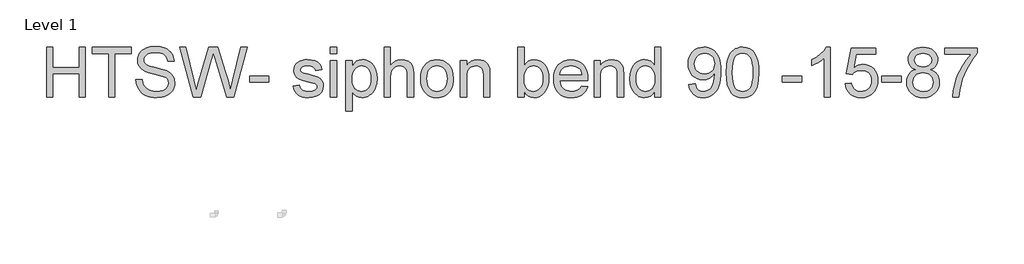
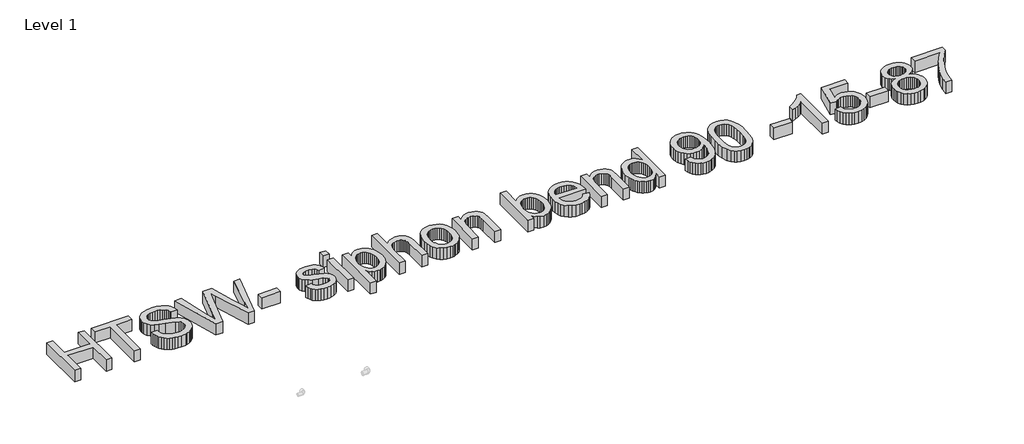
# One storey, part 23 of 29: 1 proxy.
"""IFC4 building model written with IfcOpenShell, lengths in millimetres."""

from ifc_helpers import new_model, si_unit, origin, origin_with_axes, place, context, project, spatial, polyline, outline, extrude, element, save

model = new_model("IFC4")

# Units and contexts
model_context = context("Model", 3, world=origin())
ifc_project = project(units=[si_unit("LENGTHUNIT", "METRE", prefix="MILLI")], contexts=[model_context])

# Site, building, storey
site = spatial("IfcSite", under=ifc_project)
building = spatial("IfcBuilding", under=site)
storey = spatial("IfcBuildingStorey", under=building, Name="Level 1", Elevation=0.0)

# Proxy
placement = place(None, origin())
element("IfcBuildingElementProxy", 1, Name="600mm Arial", ObjectType="600mm Arial", at=placement, inside=storey, context=model_context, shape_type="SweptSolid", body=[
    extrude(outline(polyline([(14483.8034381, 20336.8870935), (14483.8034381, 20939.6249544), (14559.1456707, 20939.6249544), (14559.1456707, 20694.7626984), (14879.3501593, 20694.7626984), (14879.3501593, 20939.6249544), (14954.6923919, 20939.6249544), (14954.6923919, 20336.8870935), (14879.3501593, 20336.8870935), (14879.3501593, 20619.4204658), (14559.1456707, 20619.4204658), (14559.1456707, 20336.8870935), (14483.8034381, 20336.8870935)])), origin_with_axes(), (0.0, 0.0, 1.0), 150.0),
    extrude(outline(polyline([(15237.2257642, 20336.8870935), (15237.2257642, 20864.2827218), (15039.4524036, 20864.2827218), (15039.4524036, 20939.6249544), (15510.3413574, 20939.6249544), (15510.3413574, 20864.2827218), (15312.5679968, 20864.2827218), (15312.5679968, 20336.8870935), (15237.2257642, 20336.8870935)])), origin_with_axes(), (0.0, 0.0, 1.0), 150.0),
    extrude(outline(polyline([(15566.8480319, 20544.0782332), (15642.1902645, 20544.0782332), (15650.8354914, 20502.2684444), (15666.4704762, 20468.6624242), (15690.8610525, 20441.9909795), (15725.7730538, 20420.9849176), (15768.4473652, 20407.3548897), (15816.1248718, 20402.811547), (15858.1002075, 20406.2512437), (15894.8516188, 20416.5703336), (15924.6316663, 20432.9042942), (15945.6929105, 20454.3886027), (15958.2192925, 20479.0550905), (15962.3947531, 20504.9355889), (15959.2677561, 20530.1538996), (15949.8867653, 20551.9509079), (15930.8304779, 20570.5473427), (15898.6775915, 20586.1639334), (15788.9751806, 20614.9323054), (15716.96228, 20633.9701987), (15670.8850601, 20652.0883869), (15633.3794907, 20677.4354564), (15606.8000166, 20708.153603), (15590.9626967, 20743.5806391), (15585.68359, 20783.0543772), (15587.3160664, 20805.4905804), (15592.2134955, 20827.1818225), (15600.3758772, 20848.1281036), (15611.8032117, 20868.3294237), (15626.3667402, 20886.9626468), (15643.937704, 20903.2046369), (15664.5161031, 20917.055394), (15688.1019375, 20928.5149181), (15741.113733, 20943.9107796), (15799.7909112, 20949.0427335), (15863.36092, 20943.6716563), (15918.9846777, 20927.5584249), (15943.3200716, 20915.5562748), (15964.6756215, 20901.0341331), (15983.0513271, 20883.9919997), (15998.4471886, 20864.4298746), (16010.7436443, 20842.9179749), (16019.8211325, 20820.0265177), (16025.6796533, 20795.7555031), (16028.3192066, 20770.104931), (15952.976974, 20770.104931), (15947.9369907, 20794.1460194), (15939.144611, 20815.0601108), (15926.599835, 20832.8472053), (15910.3026626, 20847.5073028), (15889.9495912, 20858.9668269), (15865.2371182, 20867.1522013), (15836.1652435, 20872.063426), (15802.7339672, 20873.7005008), (15768.2358331, 20872.0818201), (15738.7592882, 20867.2257777), (15714.3043326, 20859.1323738), (15694.8709662, 20847.8016084), (15680.0637159, 20834.1807775), (15669.4871085, 20819.2171774), (15663.1411441, 20802.9108079), (15661.0258226, 20785.2616692), (15662.5249418, 20770.0773398), (15667.0222992, 20756.3093562), (15674.5178948, 20743.9577182), (15685.0117287, 20733.0224259), (15701.5296303, 20722.6665477), (15727.5388874, 20712.200305), (15808.0314679, 20690.9367256), (15891.0992224, 20670.7400041), (15941.351903, 20653.1184565), (15984.3021259, 20625.7848243), (16000.9073995, 20609.7175782), (16014.2661144, 20592.0500453), (16024.5346206, 20572.8741963), (16031.8692679, 20552.2820017), (16037.7369857, 20506.8485752), (16036.0493271, 20483.2811349), (16030.9863511, 20460.4034734), (16022.5480578, 20438.2155905), (16010.7344473, 20416.7174864), (15995.752453, 20396.7414941), (15977.8090087, 20379.1199465), (15956.9041143, 20363.8528437), (15933.0377699, 20350.9401857), (15906.9043527, 20340.6716795), (15879.1982399, 20333.3370322), (15819.0679278, 20327.4693144), (15780.5276903, 20329.051207), (15745.2524054, 20333.7968847), (15713.2420733, 20341.7063476), (15684.4966939, 20352.7795957), (15658.8415233, 20367.035023), (15636.1018175, 20384.4910237), (15616.2775765, 20405.1475977), (15599.3688003, 20429.0047451), (15585.7479694, 20455.2899136), (15575.7875644, 20483.2305512), (15569.4875852, 20512.8266577), (15566.8480319, 20544.0782332)])), origin_with_axes(), (0.0, 0.0, 1.0), 150.0),
    extrude(outline(polyline([(16258.6133356, 20336.8870935), (16094.2436602, 20939.6249544), (16171.9403376, 20939.6249544), (16267.2953507, 20543.489622), (16296.7259103, 20421.2056468), (16328.2166091, 20529.3629534), (16447.7046811, 20939.6249544), (16559.6879605, 20939.6249544), (16646.5081113, 20642.2291495), (16683.700981, 20531.8645509), (16711.1081897, 20421.2056468), (16739.6558325, 20539.9579548), (16835.8937624, 20939.6249544), (16913.5904398, 20939.6249544), (16749.0736116, 20336.8870935), (16668.581031, 20336.8870935), (16524.0769833, 20801.8899354), (16503.91705, 20866.7843193), (16481.2555191, 20788.6461836), (16349.5537648, 20336.8870935), (16258.6133356, 20336.8870935)])), origin_with_axes(), (0.0, 0.0, 1.0), 150.0),
    extrude(outline(polyline([(16941.8437771, 20515.8248959), (16941.8437771, 20591.1671285), (17177.288254, 20591.1671285), (17177.288254, 20515.8248959), (16941.8437771, 20515.8248959)])), origin_with_axes(), (0.0, 0.0, 1.0), 150.0),
    extrude(outline(polyline([(17469.2394053, 20468.7360005), (17544.581638, 20478.1537796), (17549.1341776, 20460.9736905), (17556.4642264, 20445.9273168), (17566.5717842, 20433.0146588), (17579.4568511, 20422.2357164), (17595.1562152, 20413.7376423), (17613.7066648, 20407.6675893), (17659.3608204, 20402.811547), (17704.4631531, 20407.2629192), (17721.9927301, 20412.8271343), (17736.174581, 20420.6170356), (17754.9365628, 20439.9676285), (17759.6270582, 20450.8017533), (17761.1905567, 20462.4084302), (17759.6178612, 20472.5803674), (17754.8997746, 20481.6118704), (17736.0274282, 20496.2535738), (17707.8108792, 20505.8185057), (17658.4779037, 20517.7378823), (17589.7207588, 20537.6219041), (17545.0230963, 20554.5996582), (17516.3099066, 20573.1225167), (17495.5061798, 20597.6418517), (17482.8694333, 20626.5941647), (17478.6571844, 20658.4159573), (17482.0416988, 20687.6073936), (17492.1952418, 20714.5547497), (17508.1981086, 20738.1911679), (17529.1305942, 20757.4497904), (17549.934321, 20769.5715021), (17577.0288299, 20779.7434393), (17608.3539818, 20786.6412267), (17641.8496375, 20788.9404892), (17690.8883074, 20785.2432751), (17733.5258307, 20774.1516329), (17767.8124326, 20756.7508146), (17791.7983387, 20734.1260719), (17807.6908409, 20704.6035418), (17817.6972312, 20666.5093612), (17742.3549986, 20657.0915821), (17732.845249, 20680.8015767), (17714.0280849, 20698.6622475), (17685.7195654, 20709.8642543), (17647.7357494, 20713.5982565), (17604.4728268, 20710.0298012), (17575.6308783, 20699.3244351), (17559.4072824, 20683.8733913), (17553.999417, 20666.0679028), (17556.2434972, 20654.4796199), (17562.9757377, 20644.1421358), (17574.4904442, 20634.9082978), (17591.0819221, 20627.5138697), (17655.9763061, 20611.4742147), (17766.5616338, 20576.0103903), (17795.7714643, 20559.0510304), (17817.9179604, 20535.8376765), (17831.8790821, 20506.2967523), (17836.5327893, 20470.3546813), (17831.0697417, 20433.1985998), (17814.6805988, 20398.2498103), (17787.9907601, 20368.2490336), (17751.6256248, 20345.9369906), (17707.7005146, 20332.0862334), (17658.3307509, 20327.4693144), (17617.7809579, 20329.6950005), (17582.3631189, 20336.3720587), (17552.0772336, 20347.500489), (17526.9233022, 20363.0802915), (17506.3770928, 20383.0378898), (17489.9143735, 20407.2997074), (17477.5351443, 20435.8657443), (17469.2394053, 20468.7360005)])), origin_with_axes(), (0.0, 0.0, 1.0), 150.0),
    extrude(outline(polyline([(17921.292801, 20864.2827218), (17921.292801, 20939.6249544), (17996.6350336, 20939.6249544), (17996.6350336, 20864.2827218), (17921.292801, 20864.2827218)])), origin_with_axes(), (0.0, 0.0, 1.0), 150.0),
    extrude(outline(polyline([(17921.292801, 20336.8870935), (17921.292801, 20779.5227101), (17996.6350336, 20779.5227101), (17996.6350336, 20336.8870935), (17921.292801, 20336.8870935)])), origin_with_axes(), (0.0, 0.0, 1.0), 150.0),
    extrude(outline(polyline([(18109.6483825, 20167.3670701), (18109.6483825, 20779.5227101), (18184.9906152, 20779.5227101), (18184.9906152, 20705.6520054), (18209.5651324, 20742.0907171), (18237.0827057, 20768.1183682), (18269.1620157, 20783.7349589), (18307.4217432, 20788.9404892), (18333.6977147, 20787.1194733), (18358.3733995, 20781.6564256), (18381.4487976, 20772.5513463), (18402.9239091, 20759.8042351), (18422.3296843, 20743.746186), (18439.1970738, 20724.7082928), (18453.5260775, 20702.6905554), (18465.3166955, 20677.6929738), (18481.0988331, 20622.1795807), (18486.3595456, 20561.5894161), (18480.4182514, 20497.1548847), (18472.9916336, 20467.4898003), (18462.5943687, 20439.5261701), (18449.369011, 20413.9951597), (18433.4581147, 20391.6279344), (18414.8616798, 20372.4244942), (18393.5797064, 20356.3848392), (18370.6560596, 20343.7342971), (18347.1346045, 20334.6981956), (18323.0153412, 20329.2765347), (18298.2982697, 20327.4693144), (18263.6621798, 20332.3069626), (18232.7416981, 20346.8199073), (18206.2725886, 20368.7272802), (18184.9906152, 20395.7482127), (18184.9906152, 20167.3670701), (18109.6483825, 20167.3670701)]), holes=[polyline([(18184.9906152, 20554.6732346), (18187.0277617, 20518.3632817), (18193.1392014, 20487.1301003), (18203.3249341, 20460.9736905), (18217.5849599, 20439.8940521), (18234.7512535, 20423.6704561), (18253.6557896, 20412.0821733), (18274.298568, 20405.1292036), (18296.6795889, 20402.811547), (18319.3825065, 20405.211977), (18340.402364, 20412.4132671), (18359.7391614, 20424.4154172), (18377.3928986, 20441.2184273), (18392.1035799, 20463.0614208), (18402.6112094, 20490.1835209), (18408.9157871, 20522.5847276), (18411.017313, 20560.2650409), (18408.9663709, 20596.2622942), (18402.8135445, 20627.4402933), (18392.5588339, 20653.7990382), (18378.202239, 20675.338529), (18360.9945587, 20692.0771598), (18342.1865917, 20704.0333247), (18321.778338, 20711.2070236), (18299.7697977, 20713.5982565), (18277.8302352, 20711.0552722), (18257.1874567, 20703.4263194), (18237.8414623, 20690.7113979), (18219.7922519, 20672.9105079), (18204.5665358, 20650.2627725), (18193.6910243, 20623.0073152), (18187.1657175, 20591.1441359), (18184.9906152, 20554.6732346)])]), origin_with_axes(), (0.0, 0.0, 1.0), 150.0),
    extrude(outline(polyline([(18571.1195573, 20336.8870935), (18571.1195573, 20939.6249544), (18646.4617899, 20939.6249544), (18646.4617899, 20718.0128405), (18674.135713, 20749.0436868), (18705.2125445, 20771.208577), (18739.6922845, 20784.5075111), (18777.574933, 20788.9404892), (18823.0819358, 20784.1028409), (18862.1877919, 20769.5898962), (18892.9795149, 20746.5420892), (18913.5441184, 20716.0998541), (18925.1324013, 20674.2716713), (18928.9951622, 20617.066021), (18928.9951622, 20336.8870935), (18853.6529296, 20336.8870935), (18853.6529296, 20609.2669227), (18852.1538105, 20634.7059627), (18847.6564531, 20656.4293945), (18840.1608574, 20674.4372182), (18829.6670235, 20688.7294337), (18816.4232717, 20699.6095437), (18800.6779223, 20707.3810508), (18782.4309753, 20712.0439551), (18761.6824308, 20713.5982565), (18729.8422441, 20709.4044018), (18699.951832, 20696.8228376), (18675.1933737, 20677.0675744), (18658.7490485, 20651.352623), (18649.5336046, 20617.1763856), (18646.4617899, 20572.0372648), (18646.4617899, 20336.8870935), (18571.1195573, 20336.8870935)])), origin_with_axes(), (0.0, 0.0, 1.0), 150.0),
    extrude(outline(polyline([(19013.7551739, 20558.2049018), (19017.829467, 20615.5301137), (19030.0523463, 20664.9274686), (19050.4238118, 20706.3969665), (19078.9438634, 20739.9386074), (19107.6570532, 20761.3769307), (19139.350087, 20776.6900187), (19174.0229651, 20785.8778715), (19211.6756873, 20788.9404892), (19253.2417542, 20785.2110854), (19290.8254986, 20774.0228742), (19324.4269203, 20755.3758556), (19354.0460194, 20729.2700295), (19378.220465, 20696.5883128), (19395.4879262, 20658.2136222), (19405.8484029, 20614.1459577), (19409.3018951, 20564.3853193), (19407.7751848, 20524.0562556), (19403.195054, 20488.2705345), (19395.5615026, 20457.0281561), (19384.8745306, 20430.3291203), (19371.2674953, 20407.2675177), (19354.8737539, 20386.9374389), (19335.6933064, 20369.338884), (19313.7261528, 20354.4718528), (19289.8276186, 20342.6582423), (19264.8530297, 20334.219949), (19238.8023859, 20329.1569731), (19211.6756873, 20327.4693144), (19169.5026151, 20331.1849226), (19131.5693828, 20342.331747), (19097.8759906, 20360.9097878), (19068.4224384, 20386.9190448), (19044.5055102, 20419.9180598), (19027.42199, 20459.4653743), (19017.1718779, 20505.5609883), (19013.7551739, 20558.2049018)]), holes=[polyline([(19089.0974065, 20558.3520546), (19091.2771073, 20521.8075769), (19097.8162098, 20490.1651268), (19108.7147139, 20463.4247042), (19123.9726196, 20441.5863093), (19142.5322663, 20424.6223508), (19163.3359931, 20412.5052376), (19186.3838001, 20405.2349697), (19211.6756873, 20402.811547), (19236.8388158, 20405.2487652), (19259.7946523, 20412.5604199), (19280.5431968, 20424.746511), (19299.0844494, 20441.8070385), (19314.3423551, 20463.8615641), (19325.2408592, 20491.0296495), (19331.7799617, 20523.3112945), (19333.9596625, 20560.7064993), (19331.7661661, 20596.0921488), (19325.1856769, 20626.9068644), (19314.2181949, 20653.1506462), (19298.8637202, 20674.8234942), (19280.2534897, 20691.7874527), (19259.5187408, 20703.904566), (19236.6594733, 20711.1748339), (19211.6756873, 20713.5982565), (19186.3838001, 20711.1840309), (19163.3359931, 20703.9413542), (19142.5322663, 20691.8702262), (19123.9726196, 20674.970647), (19108.7147139, 20653.1966315), (19097.8162098, 20626.5021942), (19091.2771073, 20594.8873352), (19089.0974065, 20558.3520546)])]), origin_with_axes(), (0.0, 0.0, 1.0), 150.0),
    extrude(outline(polyline([(19494.0619068, 20336.8870935), (19494.0619068, 20779.5227101), (19569.4041394, 20779.5227101), (19569.4041394, 20717.7185349), (19595.5789434, 20748.8781399), (19627.0144599, 20771.1350006), (19663.7106889, 20784.489117), (19705.6676304, 20788.9404892), (19742.8053178, 20785.3536397), (19776.8160083, 20774.5930913), (19805.1797101, 20758.0016134), (19825.3764317, 20736.921975), (19839.080036, 20711.4093587), (19847.9643862, 20681.5189466), (19851.9375117, 20608.6783115), (19851.9375117, 20336.8870935), (19776.5952791, 20336.8870935), (19776.5952791, 20598.5247684), (19774.4247753, 20637.4834717), (19767.913264, 20665.184986), (19755.9019169, 20685.0322196), (19737.2319056, 20700.4280811), (19713.3011818, 20710.3057127), (19685.5076971, 20713.5982565), (19662.6300355, 20711.7496495), (19641.3802518, 20706.2038284), (19621.7583458, 20696.9607933), (19603.7643178, 20684.0205441), (19588.7317397, 20665.9115529), (19577.994184, 20641.1622917), (19571.5516506, 20609.7727604), (19569.4041394, 20571.7429592), (19569.4041394, 20336.8870935), (19494.0619068, 20336.8870935)])), origin_with_axes(), (0.0, 0.0, 1.0), 150.0),
    extrude(outline(polyline([(20266.3197911, 20336.8870935), (20190.9775585, 20336.8870935), (20190.9775585, 20939.6249544), (20266.3197911, 20939.6249544), (20266.3197911, 20716.0998541), (20291.0966434, 20747.9676319), (20319.0740692, 20770.7303304), (20350.2520683, 20784.3879495), (20384.6306407, 20788.9404892), (20423.4421912, 20784.8386049), (20460.1200261, 20772.5329522), (20492.5672181, 20752.7960831), (20518.6868398, 20726.40055), (20539.1594728, 20693.6038701), (20554.6656989, 20654.6635609), (20564.4329659, 20611.1983032), (20567.6887215, 20564.8267777), (20564.3180027, 20511.3183415), (20554.2058464, 20464.2478402), (20537.3522525, 20423.6152738), (20513.757221, 20389.4206424), (20485.4349059, 20362.3169364), (20454.3994611, 20342.9571464), (20420.6508866, 20331.3412724), (20384.1891823, 20327.4693144), (20348.6793727, 20332.4633125), (20317.197871, 20347.4453067), (20289.7446771, 20372.4152972), (20266.3197911, 20407.3732838), (20266.3197911, 20336.8870935)]), holes=[polyline([(20266.3197911, 20561.2951105), (20271.470139, 20498.4608658), (20277.9080739, 20474.6589007), (20286.9211828, 20455.9337071), (20305.1773268, 20432.6927621), (20326.3949209, 20416.092087), (20350.573965, 20406.131682), (20377.7144592, 20402.811547), (20400.2472314, 20405.2579623), (20421.198111, 20412.5972081), (20440.5670981, 20424.8292844), (20458.3541926, 20441.9541913), (20473.2258222, 20463.9259435), (20483.8484148, 20490.6985557), (20490.2219704, 20522.2720279), (20492.3464889, 20558.6463602), (20490.3093424, 20595.7104712), (20484.1979027, 20627.5874461), (20474.01217, 20654.2772848), (20459.7521441, 20675.7799874), (20442.6042446, 20692.3254802), (20423.7548909, 20704.1436893), (20403.204083, 20711.2346147), (20380.9518208, 20713.5982565), (20358.4190486, 20711.1518413), (20337.4681689, 20703.8125955), (20318.0991819, 20691.5805191), (20300.3120874, 20674.4556123), (20285.4404578, 20652.7045893), (20274.8178652, 20626.5941647), (20268.4443096, 20596.1243384), (20266.3197911, 20561.2951105)])]), origin_with_axes(), (0.0, 0.0, 1.0), 150.0),
    extrude(outline(polyline([(20962.3525259, 20468.7360005), (21036.2232306, 20459.3182215), (21024.8970636, 20429.731312), (21009.6069682, 20403.6576756), (20990.3529443, 20381.0973122), (20967.1349919, 20362.0502219), (20940.1922343, 20346.9210749), (20909.7637947, 20336.1145413), (20875.8496733, 20329.6306211), (20838.44987, 20327.4693144), (20791.7012654, 20331.1987181), (20750.0478265, 20342.3869293), (20713.4895533, 20361.0339479), (20682.0264456, 20387.139774), (20656.7253614, 20419.9778406), (20638.6531584, 20458.8215808), (20627.8098366, 20503.6709945), (20624.195396, 20554.5260818), (20627.8466248, 20607.105616), (20638.8003112, 20653.4495503), (20657.0564552, 20693.5578849), (20682.6150568, 20727.4306196), (20713.995391, 20754.3411875), (20749.7167327, 20773.5630218), (20789.779082, 20785.0961223), (20834.1824388, 20788.9404892), (20877.1556544, 20785.1053194), (20916.0177887, 20773.59981), (20950.7688416, 20754.423961), (20981.4088133, 20727.5777724), (21006.4201904, 20693.778614), (21024.2854598, 20653.7438559), (21035.0046215, 20607.473498), (21038.5776753, 20554.9675402), (21038.136217, 20534.6604541), (20699.5376286, 20534.6604541), (20703.9016288, 20504.595298), (20712.5790453, 20478.2641442), (20725.5698783, 20455.6669927), (20742.8741276, 20436.8038434), (20763.5353002, 20421.9322137), (20786.5969027, 20411.3096211), (20812.0589353, 20404.9360655), (20839.9213979, 20402.811547), (20880.0205354, 20406.7478844), (20913.7921026, 20418.5568964), (20941.2360994, 20438.9743471), (20962.3525259, 20468.7360005)]), holes=[polyline([(20699.5376286, 20610.0026867), (20963.2354427, 20610.0026867), (20953.0451115, 20649.8075186), (20944.2803229, 20665.4608975), (20933.0691191, 20678.281585), (20912.5229097, 20693.7326288), (20889.1440089, 20704.7690887), (20862.9324167, 20711.3909646), (20833.8881332, 20713.5982565), (20807.3960311, 20711.8370215), (20783.1020238, 20706.5533163), (20761.0061115, 20697.7471411), (20741.108294, 20685.4184957), (20724.41105, 20670.1375973), (20711.9168577, 20652.474663), (20703.6257173, 20632.4296928), (20699.5376286, 20610.0026867)])]), origin_with_axes(), (0.0, 0.0, 1.0), 150.0),
    extrude(outline(polyline([(21113.919908, 20336.8870935), (21113.919908, 20779.5227101), (21189.2621406, 20779.5227101), (21189.2621406, 20717.7185349), (21215.4369445, 20748.8781399), (21246.872461, 20771.1350006), (21283.56869, 20784.489117), (21325.5256316, 20788.9404892), (21362.663319, 20785.3536397), (21396.6740095, 20774.5930913), (21425.0377113, 20758.0016134), (21445.2344328, 20736.921975), (21458.9380371, 20711.4093587), (21467.8223873, 20681.5189466), (21471.7955129, 20608.6783115), (21471.7955129, 20336.8870935), (21396.4532803, 20336.8870935), (21396.4532803, 20598.5247684), (21394.2827765, 20637.4834717), (21387.7712652, 20665.184986), (21375.759918, 20685.0322196), (21357.0899068, 20700.4280811), (21333.159183, 20710.3057127), (21305.3656982, 20713.5982565), (21282.4880367, 20711.7496495), (21261.2382529, 20706.2038284), (21241.616347, 20696.9607933), (21223.6223189, 20684.0205441), (21208.5897409, 20665.9115529), (21197.8521852, 20641.1622917), (21191.4096517, 20609.7727604), (21189.2621406, 20571.7429592), (21189.2621406, 20336.8870935), (21113.919908, 20336.8870935)])), origin_with_axes(), (0.0, 0.0, 1.0), 150.0),
    extrude(outline(polyline([(21848.5066759, 20336.8870935), (21848.5066759, 20407.9618949), (21825.9647067, 20372.746391), (21798.6586656, 20347.5924595), (21766.5885527, 20332.5001007), (21729.7543679, 20327.4693144), (21704.885545, 20329.2903303), (21681.0467917, 20334.7533779), (21658.238108, 20343.8584573), (21636.4594939, 20356.6055684), (21616.3915311, 20372.6130337), (21598.7148012, 20391.4991757), (21583.4293043, 20413.2639942), (21570.5350404, 20437.9074894), (21560.2987239, 20464.9606116), (21552.9870692, 20493.9543113), (21547.1377455, 20557.7634434), (21552.5272167, 20620.7816292), (21568.6956304, 20677.6929738), (21580.8173421, 20703.0492403), (21595.6245924, 20725.2601158), (21613.1173813, 20744.3256002), (21633.2957087, 20760.2456935), (21655.4468034, 20772.7996666), (21678.8578939, 20781.7667902), (21703.5289802, 20787.1470644), (21729.4600623, 20788.9404892), (21766.3218382, 20783.8085353), (21798.916183, 20768.4126738), (21826.5441208, 20744.8130438), (21848.5066759, 20715.0697845), (21848.5066759, 20939.6249544), (21923.8489085, 20939.6249544), (21923.8489085, 20336.8870935), (21848.5066759, 20336.8870935)]), holes=[polyline([(21622.4799781, 20558.057749), (21624.6044966, 20521.5224683), (21630.9780522, 20489.9076094), (21641.6006448, 20463.2131721), (21656.4722744, 20441.4391565), (21674.2317778, 20424.5395774), (21693.5179914, 20412.4684494), (21714.3309152, 20405.2257726), (21736.6705494, 20402.811547), (21759.1159496, 20405.115408), (21779.8047133, 20412.026991), (21798.7368405, 20423.546296), (21815.9123312, 20439.6733229), (21830.172357, 20460.5368306), (21840.3580897, 20486.2655776), (21846.4695294, 20516.859564), (21848.5066759, 20552.3187899), (21846.4327412, 20591.1947197), (21840.2109369, 20624.5340255), (21829.8412632, 20652.3367073), (21815.32372, 20674.6027651), (21797.7711503, 20691.6632926), (21778.2963971, 20703.8493837), (21756.8994606, 20711.1610383), (21733.5803406, 20713.5982565), (21710.7992481, 20711.2576073), (21689.9863242, 20704.2356598), (21671.141569, 20692.5324138), (21654.2649825, 20676.1478694), (21640.3590431, 20654.7233417), (21630.4262292, 20627.9001458), (21624.4665409, 20595.6782815), (21622.4799781, 20558.057749)])]), origin_with_axes(), (0.0, 0.0, 1.0), 150.0),
    extrude(outline(polyline([(22262.8889553, 20487.5715587), (22338.2311879, 20496.9893378), (22351.1070577, 20454.2230558), (22360.5800191, 20437.9580731), (22372.0763315, 20425.1051959), (22385.4672361, 20415.3517245), (22400.6239743, 20408.3849592), (22436.2349514, 20402.811547), (22468.1855027, 20406.3983965), (22497.2297862, 20417.1589448), (22521.3628451, 20433.9159697), (22538.5797225, 20455.4922487), (22551.6211392, 20483.8559506), (22563.2278162, 20520.9752439), (22571.3947964, 20563.5759789), (22574.1171232, 20608.3840059), (22573.6756648, 20623.0992857), (22547.5744373, 20591.2407049), (22513.416594, 20566.0040001), (22473.6669444, 20549.5596749), (22430.7902979, 20544.0782332), (22394.9999783, 20547.4259593), (22362.0883353, 20557.4691378), (22332.0553689, 20574.2077686), (22304.9010791, 20597.6418517), (22282.4004966, 20626.5481794), (22266.3286519, 20659.7035442), (22256.6855451, 20697.1079461), (22253.4711762, 20738.761385), (22256.841895, 20781.8035784), (22266.9540513, 20820.4311879), (22283.8076452, 20854.6442135), (22307.4026767, 20884.4426551), (22336.0744797, 20908.584911), (22368.1583882, 20925.8293796), (22403.6544022, 20936.1760607), (22442.5625217, 20939.6249544), (22471.289507, 20937.6567857), (22498.7564965, 20931.7522797), (22524.9634901, 20921.9114363), (22549.9104879, 20908.1342556), (22572.7651569, 20890.7150431), (22592.695164, 20869.9481045), (22609.7005092, 20845.8334397), (22623.7811926, 20818.3710488), (22634.8222509, 20785.9790391), (22642.7087212, 20747.0755181), (22647.4406034, 20701.6604858), (22649.0178974, 20649.7339422), (22647.4452019, 20595.2000349), (22642.7271153, 20546.5246484), (22634.8636377, 20503.7077827), (22623.854769, 20466.7494378), (22609.7418959, 20434.7483027), (22592.5664053, 20406.8030667), (22572.328297, 20382.9137296), (22549.0275711, 20363.0802915), (22523.1332772, 20347.500489), (22495.1144647, 20336.3720587), (22464.9711338, 20329.6950005), (22432.7032843, 20327.4693144), (22398.8673378, 20330.0950721), (22368.2871469, 20337.9723454), (22340.9627117, 20351.1011341), (22316.8940322, 20369.4814383), (22296.6881136, 20392.6166172), (22280.9519613, 20420.0100303), (22269.6855752, 20451.6616774), (22262.8889553, 20487.5715587)]), holes=[polyline([(22573.6756648, 20740.5272186), (22571.6431168, 20767.529757), (22565.5454727, 20791.5892395), (22555.3827326, 20812.705666), (22541.1548964, 20830.8790366), (22523.56094, 20845.4931489), (22503.2998391, 20855.9318005), (22480.3715938, 20862.1949914), (22454.776204, 20864.2827218), (22428.3622767, 20862.0340431), (22404.449947, 20855.288007), (22383.0392149, 20844.0446135), (22364.1300804, 20828.3038626), (22348.6790366, 20808.9854594), (22337.6425767, 20787.0091087), (22331.0207008, 20762.3748106), (22328.8134088, 20735.0825651), (22330.9011392, 20710.6046168), (22337.1643301, 20688.5270986), (22347.6029817, 20668.8500104), (22362.217094, 20651.5733522), (22380.3996616, 20637.5064644), (22401.5436793, 20627.4586874), (22425.649147, 20621.4300212), (22452.7160648, 20619.4204658), (22477.9573682, 20621.4300212), (22500.8534239, 20627.4586874), (22521.4042318, 20637.5064644), (22539.6097921, 20651.5733522), (22554.5136114, 20669.1903012), (22565.1591966, 20689.8882619), (22571.5465478, 20713.6672344), (22573.6756648, 20740.5272186)])]), origin_with_axes(), (0.0, 0.0, 1.0), 150.0),
    extrude(outline(polyline([(22714.942351, 20633.3999816), (22720.478975, 20729.8770348), (22727.399755, 20770.7901112), (22737.0888471, 20806.8195541), (22749.5048644, 20838.2596691), (22764.6064203, 20865.4047618), (22782.3935148, 20888.2548323), (22802.8661478, 20906.8098804), (22826.0932973, 20921.1664753), (22852.1439411, 20931.4211859), (22881.0180792, 20937.5740123), (22912.7157116, 20939.6249544), (22959.1424194, 20934.768912), (23000.7130848, 20920.200785), (23035.4779334, 20896.4907904), (23061.4871904, 20864.2091454), (23081.132089, 20823.6317613), (23096.803862, 20775.0345497), (23107.0677696, 20713.322345), (23110.4890722, 20633.3999816), (23105.0076305, 20537.4747513), (23098.1558283, 20496.6996307), (23088.5633053, 20460.7161731), (23076.243857, 20429.2622625), (23061.2112789, 20402.075783), (23043.4655712, 20379.1567347), (23023.0067337, 20360.5051176), (22999.7519931, 20346.0519537), (22973.6185759, 20335.7282652), (22944.606482, 20329.5340521), (22912.7157116, 20327.4693144), (22871.2186225, 20331.0561639), (22834.430423, 20341.8167122), (22802.351113, 20359.7509595), (22774.9806926, 20384.8589056), (22748.7139181, 20430.2463468), (22729.9519364, 20486.7990065), (22718.6947473, 20554.5168848), (22714.942351, 20633.3999816)]), holes=[polyline([(22790.2845836, 20633.5471344), (22792.4918755, 20568.0503437), (22799.1137515, 20515.0339496), (22810.1502113, 20474.4979523), (22825.6012551, 20446.4423516), (22844.2896605, 20427.3538746), (22865.038205, 20413.7192482), (22887.8468887, 20405.5384723), (22912.7157116, 20402.811547), (22937.5845344, 20405.5476694), (22960.3932181, 20413.7560364), (22981.1417627, 20427.4366481), (22999.830168, 20446.5895044), (23015.2812118, 20474.6910903), (23026.3176717, 20515.2178906), (23032.9395476, 20568.1699053), (23035.1468396, 20633.5471344), (23033.013124, 20697.3102812), (23026.6119773, 20749.3931747), (23015.9433994, 20789.7958148), (23001.0073904, 20818.5182016), (22982.6316848, 20838.5401792), (22961.6440169, 20852.8415917), (22938.0443869, 20861.4224393), (22911.8327948, 20864.2827218), (22887.0927306, 20861.7627301), (22864.670323, 20854.2027551), (22844.565572, 20841.6027968), (22826.7784775, 20823.9628551), (22810.8123989, 20792.6928855), (22799.4080571, 20750.5336089), (22792.5654519, 20697.4850251), (22790.2845836, 20633.5471344)])]), origin_with_axes(), (0.0, 0.0, 1.0), 150.0),
    extrude(outline(polyline([(23393.0224445, 20515.8248959), (23393.0224445, 20591.1671285), (23628.4669214, 20591.1671285), (23628.4669214, 20515.8248959), (23393.0224445, 20515.8248959)])), origin_with_axes(), (0.0, 0.0, 1.0), 150.0),
    extrude(outline(polyline([(23976.9247472, 20336.8870935), (23901.5825146, 20336.8870935), (23901.5825146, 20806.5988249), (23870.128604, 20781.159785), (23830.2134075, 20755.7575332), (23788.3116483, 20733.5558548), (23750.8980494, 20717.7185349), (23750.8980494, 20788.9404892), (23810.0718683, 20821.1301637), (23861.3362243, 20859.4266794), (23901.7480615, 20900.1512163), (23928.3643239, 20939.6249544), (23976.9247472, 20939.6249544), (23976.9247472, 20336.8870935)])), origin_with_axes(), (0.0, 0.0, 1.0), 150.0),
    extrude(outline(polyline([(24155.8625497, 20496.9893378), (24231.2047823, 20506.4071169), (24236.8333768, 20482.186686), (24245.0371453, 20461.1760255), (24255.8160878, 20443.3751355), (24269.1702042, 20428.7840159), (24285.0719034, 20417.4210607), (24303.4935943, 20409.3046642), (24324.4352769, 20404.4348263), (24347.8969512, 20402.811547), (24376.5917468, 20405.0694228), (24401.902028, 20411.84305), (24423.827795, 20423.1324287), (24442.3690475, 20438.9375589), (24457.1119185, 20458.4766914), (24467.6425406, 20480.9680769), (24473.9609139, 20506.4117154), (24476.0670383, 20534.8076069), (24474.0942711, 20561.6445984), (24468.1759695, 20585.5017458), (24458.3121335, 20606.379049), (24444.5027631, 20624.2765081), (24426.701873, 20638.633103), (24404.8634781, 20648.8878136), (24378.9875783, 20655.04064), (24349.0741735, 20657.0915821), (24312.5250973, 20653.8174323), (24282.9289908, 20643.9949831), (24259.2925726, 20628.9486094), (24240.6225614, 20610.0026867), (24165.2803288, 20619.4204658), (24231.2047823, 20930.2071753), (24523.1559337, 20930.2071753), (24523.1559337, 20854.8649427), (24292.1260407, 20854.8649427), (24259.8995779, 20688.8765865), (24286.4882491, 20707.9328738), (24313.7207138, 20721.5445076), (24341.596972, 20729.7114879), (24370.1170237, 20732.4338147), (24406.8086542, 20729.0584974), (24440.5112434, 20718.9325455), (24471.2247915, 20702.0559589), (24498.9492984, 20678.4287378), (24521.9005364, 20649.4948189), (24538.2942778, 20616.698139), (24548.1305226, 20580.0386982), (24551.4092709, 20539.5164964), (24548.4570179, 20500.4842167), (24539.6002588, 20464.1742638), (24524.8389938, 20430.5866376), (24504.1732227, 20399.7213383), (24472.8664649, 20368.1110778), (24436.3357828, 20345.5323204), (24394.5811763, 20331.9850659), (24347.6026456, 20327.4693144), (24308.7221172, 20330.3709836), (24273.6031822, 20339.0759913), (24242.2458407, 20353.5843375), (24214.6500925, 20373.8960222), (24191.6896575, 20398.9993698), (24174.2382553, 20427.882705), (24162.2958861, 20460.5460276), (24155.8625497, 20496.9893378)])), origin_with_axes(), (0.0, 0.0, 1.0), 150.0),
    extrude(outline(polyline([(24598.4981663, 20515.8248959), (24598.4981663, 20591.1671285), (24833.9426432, 20591.1671285), (24833.9426432, 20515.8248959), (24598.4981663, 20515.8248959)])), origin_with_axes(), (0.0, 0.0, 1.0), 150.0),
    extrude(outline(polyline([(25009.6430841, 20668.8638059), (24969.3048233, 20688.7294337), (24953.6468459, 20701.3109979), (24940.9963038, 20715.6583957), (24924.2760671, 20749.0988691), (24918.7026549, 20788.4990308), (24921.7376813, 20819.2263744), (24930.8427607, 20847.3969382), (24946.017893, 20873.0107221), (24967.2630782, 20896.0677261), (24993.5574438, 20915.1240135), (25023.8801173, 20928.7356473), (25058.2310986, 20936.9026276), (25096.6103877, 20939.6249544), (25135.1736179, 20936.8382483), (25169.7821166, 20928.4781299), (25200.4358838, 20914.5445994), (25227.1349196, 20895.0376566), (25248.7663809, 20871.5299971), (25264.2174247, 20845.5943164), (25273.488051, 20817.2306146), (25276.5782598, 20786.4388916), (25271.078424, 20748.3079228), (25254.5789165, 20715.4376665), (25242.1583006, 20701.1868377), (25226.8957963, 20688.6742514), (25187.8451225, 20668.8638059), (25212.6081793, 20658.3285853), (25234.216648, 20644.9698703), (25252.6705286, 20628.7876611), (25267.9698211, 20609.7819575), (25279.9765697, 20588.3758239), (25288.5528187, 20564.9923246), (25293.6985681, 20539.6314595), (25295.4138179, 20512.2932288), (25292.0109095, 20474.714083), (25281.8021841, 20440.2619341), (25264.7876418, 20408.9367822), (25240.9672826, 20380.7386273), (25211.5919053, 20357.4333029), (25177.9123087, 20340.7866426), (25139.9284927, 20330.7986465), (25097.6404573, 20327.4693144), (25055.352422, 20330.812442), (25017.368606, 20340.8418249), (24983.6890093, 20357.5574631), (24954.313632, 20380.9593565), (24930.4932728, 20409.355248), (24913.4787305, 20441.0528804), (24903.2700052, 20476.0522537), (24899.8670967, 20514.353368), (24901.6513244, 20542.937799), (24907.0040074, 20569.0942088), (24915.9251458, 20592.8225975), (24928.4147395, 20614.122965), (24944.1968771, 20632.6090353), (24962.9956471, 20647.8945322), (24984.8110494, 20659.9794557), (25009.6430841, 20668.8638059)]), holes=[polyline([(24994.0448875, 20786.2917388), (24995.714152, 20769.0196791), (25000.7219457, 20753.4030884), (25009.0682685, 20739.4419667), (25020.7531203, 20727.136314), (25035.6293485, 20717.0931355), (25053.5498002, 20709.9194366), (25074.5144754, 20705.6152172), (25098.5233741, 20704.1804775), (25121.9390631, 20705.6060202), (25142.4484843, 20709.8826484), (25160.0516378, 20717.010362), (25174.7485235, 20726.9891612), (25186.3368064, 20739.0372965), (25194.6141513, 20752.3730188), (25199.5805582, 20766.9963281), (25201.2360272, 20782.9072244), (25199.5253759, 20799.4389216), (25194.3934221, 20814.6002583), (25185.8401657, 20828.3912346), (25173.8656067, 20840.8118505), (25158.8376272, 20851.0803567), (25141.1241092, 20858.4150039), (25120.7250525, 20862.8157923), (25097.6404573, 20864.2827218), (25074.3765197, 20862.847982), (25053.880894, 20858.5437626), (25036.1535804, 20851.3700637), (25021.1945787, 20841.3268853), (25009.3165888, 20829.2787499), (25000.8323103, 20816.0901804), (24995.7417432, 20801.7611767), (24994.0448875, 20786.2917388)]), polyline([(24975.2093293, 20517.0021183), (24978.3547204, 20488.178564), (24987.7908936, 20460.2747147), (25005.210106, 20435.9393207), (25032.304615, 20417.8211324), (25064.751807, 20406.5639434), (25098.2290685, 20402.811547), (25125.4707303, 20404.7843142), (25149.5118186, 20410.7026158), (25170.3523337, 20420.5664518), (25187.9922753, 20434.3758222), (25202.0269735, 20451.2294161), (25212.0517578, 20470.2259226), (25218.0666284, 20491.3653418), (25220.0715853, 20514.6476735), (25218.0022491, 20538.3024858), (25211.7942404, 20559.8235826), (25201.4475593, 20579.2109637), (25186.9622058, 20596.4646293), (25168.8440175, 20610.6280861), (25147.5988323, 20620.744841), (25123.2266501, 20626.8148939), (25095.727471, 20628.8382449), (25068.8858809, 20626.842485), (25045.1620907, 20620.8552056), (25024.5561005, 20610.8764064), (25007.0679101, 20596.9060877), (24993.129781, 20579.9375306), (24983.1739745, 20560.9640167), (24977.2004906, 20539.985546), (24975.2093293, 20517.0021183)])]), origin_with_axes(), (0.0, 0.0, 1.0), 150.0),
    extrude(outline(polyline([(25361.3382715, 20854.8649427), (25361.3382715, 20930.2071753), (25756.8849927, 20930.2071753), (25756.8849927, 20869.2859169), (25700.5070769, 20797.9352039), (25644.6809842, 20707.1971098), (25595.4399791, 20605.3489795), (25575.5513587, 20553.362655), (25558.8173265, 20500.6681577), (25540.8646851, 20422.346081), (25530.8582948, 20336.8870935), (25455.5160622, 20336.8870935), (25463.6646484, 20414.5469827), (25485.4616566, 20506.8485752), (25501.3311662, 20556.2137405), (25520.3184757, 20604.6867919), (25542.4235851, 20652.2677294), (25567.6464944, 20698.9565531), (25622.90237, 20784.1764173), (25681.5427601, 20854.8649427), (25361.3382715, 20854.8649427)])), origin_with_axes(), (0.0, 0.0, 1.0), 150.0),
])

save(model, "model.ifc")
